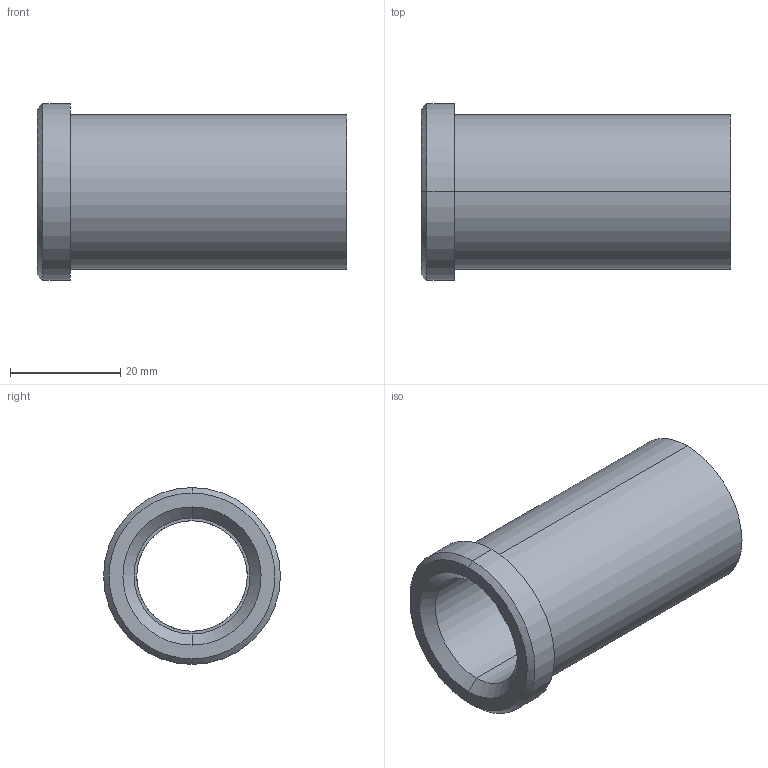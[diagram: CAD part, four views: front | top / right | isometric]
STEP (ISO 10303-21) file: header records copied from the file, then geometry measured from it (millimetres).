
FILE_DESCRIPTION(('CATIA V5 STEP Exchange'),'2;1');
FILE_NAME('C:\Users\Utente\Desktop\IO LAVORO\3D X SITO CF\X SITO\PLASTICA\353\353-20X56.stp','2021-05-11T14:49:12+00:00',('none'),('none'),'CATIA Version 5 Release 20 GA (IN-10)','CATIA V5 STEP AP203','none');
FILE_SCHEMA(('CONFIG_CONTROL_DESIGN'));
Length unit declared in the file: millimetre
Products named in the file (1): 353-20X56
Bounding box: 56 x 32 x 32 mm (x, y, z)
Volume: 17284.1 mm3; surface area: 9378.7 mm2
Topology: 1 solids, 1 shells, 18 faces, 58 edges, 44 vertices
Faces by surface type: cylinder 8, plane 4, cone 4, torus 2
Entity records: 840 total; most frequent: CARTESIAN_POINT 289, ORIENTED_EDGE 116, DIRECTION 82, EDGE_CURVE 58, AXIS2_PLACEMENT_3D 53, VERTEX_POINT 44, CIRCLE 34, EDGE_LOOP 22
